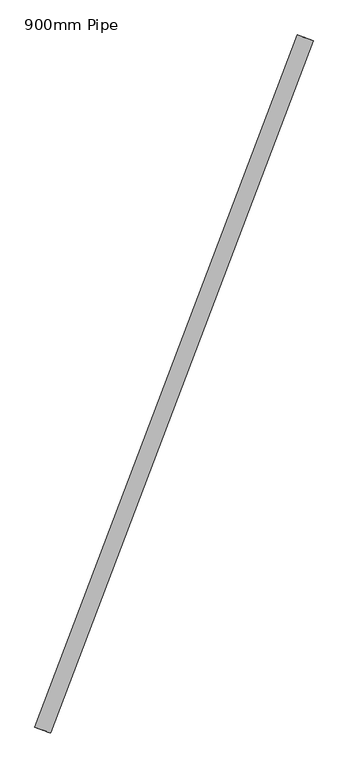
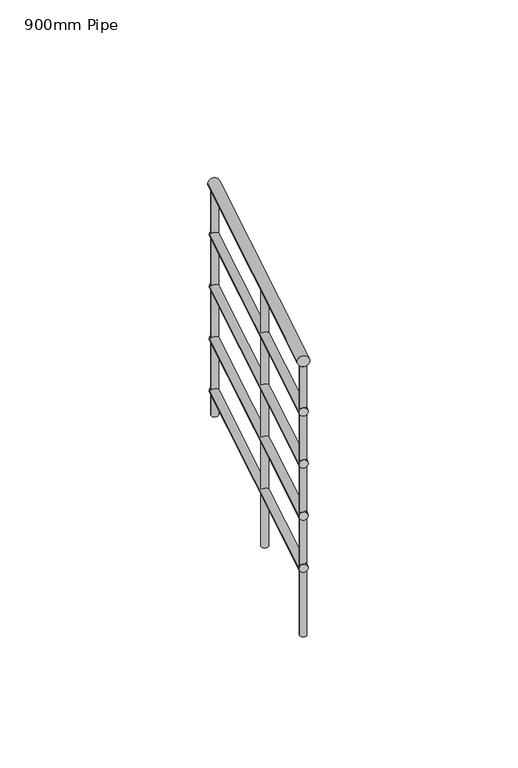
"""IFC4 building model written with IfcOpenShell, lengths in millimetres: railing geometry, 900mm Pipe."""

import ifcopenshell
import ifcopenshell.guid

model = None  # the IFC model being written
_history = None  # IfcOwnerHistory: only IFC2X3 demands one
_inside = {}  # id of a spatial element -> (the spatial element, [elements in it])
_under = {}  # id of a project, library or spatial element -> (it, [spatial elements below it])
_declared = {}  # id of a project -> (the project, [libraries it declares])
_typed = {}  # id of a type object -> (the type object, [elements of that type])
_made_of = {}  # id of a material, layer set ... -> (it, [elements and type objects made of it])


def new_model(schema):
    """Start an empty IFC model of exactly this schema.

    Asked for "IFC4X3", IfcOpenShell would pick the latest addendum, in which some entities
    have other attributes; the version numbers below select the first issue.
    IFC2X3 requires an IfcOwnerHistory on every rooted entity: one is made here for all.
    """
    global model, _history
    if schema == "IFC4X3":
        model = ifcopenshell.file(schema_version=(4, 3, 0, 0))
    else:
        model = ifcopenshell.file(schema=schema)
    _inside.clear()
    _under.clear()
    _declared.clear()
    _typed.clear()
    _made_of.clear()
    _history = None
    if model.schema == "IFC2X3":
        org = make("IfcOrganization", Name="unknown")
        user = make(
            "IfcPersonAndOrganization",
            ThePerson=make("IfcPerson", FamilyName="unknown"),
            TheOrganization=org,
        )
        app = make(
            "IfcApplication",
            ApplicationDeveloper=org,
            Version="unknown",
            ApplicationFullName="unknown",
            ApplicationIdentifier="unknown",
        )
        _history = make(
            "IfcOwnerHistory",
            OwningUser=user,
            OwningApplication=app,
            ChangeAction="ADDED",
            CreationDate=0,
        )
    return model


def make(cls, **values):
    """One entity of the class cls with the attributes given. An attribute that is None is left unset."""
    return model.create_entity(
        cls, **{name: value for name, value in values.items() if value is not None}
    )


def rooted(cls, **values):
    """An entity with a GlobalId (a new one), such as an element, a storey or a relation."""
    return make(cls, GlobalId=ifcopenshell.guid.new(), OwnerHistory=_history, **values)


def si_unit(unit_type, name, prefix=None):
    """IfcSIUnit, for example si_unit("LENGTHUNIT", "METRE", prefix="MILLI")."""
    return make("IfcSIUnit", UnitType=unit_type, Prefix=prefix, Name=name)


def assignment(units):
    """IfcUnitAssignment: the units of a project."""
    return None if units is None else make("IfcUnitAssignment", Units=units)


def point(xyz):
    """IfcCartesianPoint."""
    return None if xyz is None else make("IfcCartesianPoint", Coordinates=xyz)


def direction(xyz):
    """IfcDirection."""
    return None if xyz is None else make("IfcDirection", DirectionRatios=xyz)


def frame(location, z_axis=None, x_axis=None):
    """IfcAxis2Placement3D, a coordinate frame: its origin and axes. An axis left out is left unset."""
    return make(
        "IfcAxis2Placement3D",
        Location=point(location),
        Axis=direction(z_axis),
        RefDirection=direction(x_axis),
    )


def origin():
    """The frame at (0, 0, 0) with its axes left unset."""
    return frame((0.0, 0.0, 0.0))


def place(relative_to, where):
    """IfcLocalPlacement: puts the frame where relative to a parent placement (None: the world)."""
    return make(
        "IfcLocalPlacement", PlacementRelTo=relative_to, RelativePlacement=where
    )


def context(
    kind, dimensions, precision=None, world=None, true_north=None, identifier=None
):
    """IfcGeometricRepresentationContext, for example the 3D "Model" context."""
    return make(
        "IfcGeometricRepresentationContext",
        ContextIdentifier=identifier,
        ContextType=kind,
        CoordinateSpaceDimension=dimensions,
        Precision=precision,
        WorldCoordinateSystem=world,
        TrueNorth=true_north,
    )


def project(units=None, contexts=None):
    """IfcProject with its units and contexts."""
    return rooted(
        "IfcProject",
        Name="project",
        RepresentationContexts=contexts,
        UnitsInContext=assignment(units),
    )


def spatial(cls, under=None, at=None, **own):
    """A site, building, storey or space (cls), placed at a placement, below another one or the project."""
    s = rooted(cls, ObjectPlacement=at, **own)
    if under is not None:
        _under.setdefault(under.id(), (under, []))[1].append(s)
    return s


def circle_curve(where, radius):
    """IfcCircle in the frame where."""
    return make("IfcCircle", Position=where, Radius=radius)


def ellipse_curve(where, semi_axis1, semi_axis2):
    """IfcEllipse in the frame where."""
    return make(
        "IfcEllipse", Position=where, SemiAxis1=semi_axis1, SemiAxis2=semi_axis2
    )


def shape(context_of_items, identifier, shape_type, items):
    """IfcShapeRepresentation: the items that make up one representation, for example the "Body"."""
    return make(
        "IfcShapeRepresentation",
        ContextOfItems=context_of_items,
        RepresentationIdentifier=identifier,
        RepresentationType=shape_type,
        Items=items,
    )


def source(mapping_origin, context_of_items, identifier, shape_type, items):
    """IfcRepresentationMap: a shape defined once, which mapped items show again and again."""
    return make(
        "IfcRepresentationMap",
        MappingOrigin=mapping_origin,
        MappedRepresentation=shape(context_of_items, identifier, shape_type, items),
    )


def transform(
    local_origin,
    x_axis=None,
    y_axis=None,
    z_axis=None,
    scale=None,
    scale2=None,
    scale3=None,
    uniform=True,
):
    """IfcCartesianTransformationOperator3D, or its non-uniform kind. x_axis, y_axis, z_axis: its Axis1, 2, 3."""
    if uniform:
        return make(
            "IfcCartesianTransformationOperator3D",
            Axis1=direction(x_axis),
            Axis2=direction(y_axis),
            LocalOrigin=point(local_origin),
            Scale=scale,
            Axis3=direction(z_axis),
        )
    return make(
        "IfcCartesianTransformationOperator3DnonUniform",
        Axis1=direction(x_axis),
        Axis2=direction(y_axis),
        LocalOrigin=point(local_origin),
        Scale=scale,
        Axis3=direction(z_axis),
        Scale2=scale2,
        Scale3=scale3,
    )


def mapped(mapping_source, mapping_target):
    """IfcMappedItem: shows the shape of a source again, moved by a transform."""
    return make(
        "IfcMappedItem", MappingSource=mapping_source, MappingTarget=mapping_target
    )


def made_of(thing, what):
    """Note that an element or type object is made of a material, layer set ...; save() writes the relation."""
    if what is not None:
        _made_of.setdefault(what.id(), (what, []))[1].append(thing)
    return thing


def element(
    cls,
    number,
    at=None,
    inside=None,
    cuts=None,
    type_object=None,
    material=None,
    context=None,
    identifier="Body",
    shape_type=None,
    held_by="IfcProductDefinitionShape",
    body=None,
    shapes=None,
    **own,
):
    """One element of the class cls, such as IfcWall. Its Tag is "e" and its number.

    at: its placement. inside: the storey or other place that contains it. cuts: it is an
    opening in that element (IfcRelVoidsElement). A single representation is given by context,
    identifier, shape_type and body (its items); several are given by shapes. held_by: the class
    of the entity that holds the representations. save() writes the other relations.
    """
    e = rooted(cls, Tag="e%d" % number, ObjectPlacement=at, **own)
    if body is not None:
        shapes = [shape(context, identifier, shape_type, body)]
    if shapes is not None:
        e.Representation = make(held_by, Representations=shapes)
    if inside is not None:
        _inside.setdefault(inside.id(), (inside, []))[1].append(e)
    if cuts is not None:
        rooted(
            "IfcRelVoidsElement", RelatingBuildingElement=cuts, RelatedOpeningElement=e
        )
    if type_object is not None:
        _typed.setdefault(type_object.id(), (type_object, []))[1].append(e)
    return made_of(e, material)


def aggregate(whole, parts):
    """IfcRelAggregates: a whole, such as a stair, and the parts it consists of."""
    return rooted("IfcRelAggregates", RelatingObject=whole, RelatedObjects=parts)


def save(model, path):
    """Write the relations noted so far, then the file.

    IfcRelAggregates (storeys below a building ...), IfcRelContainedInSpatialStructure (elements
    in a storey), IfcRelDefinesByType, IfcRelAssociatesMaterial and IfcRelDeclares: one each for
    every whole, place, type object, material and project.
    """
    for whole, parts in _under.values():
        aggregate(whole, parts)
    for where, things in _inside.values():
        rooted(
            "IfcRelContainedInSpatialStructure",
            RelatedElements=things,
            RelatingStructure=where,
        )
    for kind, things in _typed.values():
        rooted("IfcRelDefinesByType", RelatedObjects=things, RelatingType=kind)
    for what, things in _made_of.values():
        rooted("IfcRelAssociatesMaterial", RelatedObjects=things, RelatingMaterial=what)
    for by, libraries in _declared.values():
        rooted("IfcRelDeclares", RelatingContext=by, RelatedDefinitions=libraries)
    model.write(path)


def plane_surface(at):
    """IfcPlane: the flat surface through the origin of the frame at, square to its z axis."""
    return make("IfcPlane", Position=at)


def cylinder_surface(at, radius):
    """IfcCylindricalSurface: all points at the distance radius from the z axis of the frame at."""
    return make("IfcCylindricalSurface", Position=at, Radius=radius)


def advanced_brep(points, edges, surfaces, faces):
    """IfcAdvancedBrep: a solid bounded by faces that lie on surfaces and meet in shared edges.

    An edge is (start, end): straight between two places in points (the first is 0);
    or (start, end, curve); or (start, end, curve, False) where it runs against its curve.
    A face is (place in surfaces, loops), or (place, loops, False) where it looks against
    its surface's normal. A loop lists edges by number (the first is 1), with a minus sign
    where the edge is run from its end to its start. The first loop is the outer one.
    """
    corners = [point(p) for p in points]
    vertices = [make("IfcVertexPoint", VertexGeometry=c) for c in corners]
    made = []
    for start, end, *more in edges:
        made.append(
            make(
                "IfcEdgeCurve",
                EdgeStart=vertices[start],
                EdgeEnd=vertices[end],
                EdgeGeometry=more[0] if more else make("IfcPolyline", Points=[corners[start], corners[end]]),
                SameSense=more[1] if len(more) > 1 else True,
            )
        )
    hull = []
    for where, loops, *sense in faces:
        bounds = []
        for j, loop in enumerate(loops):
            ring = [make("IfcOrientedEdge", EdgeElement=made[abs(k) - 1], Orientation=k > 0) for k in loop]
            bounds.append(
                make(
                    "IfcFaceOuterBound" if j == 0 else "IfcFaceBound",
                    Bound=make("IfcEdgeLoop", EdgeList=ring),
                    Orientation=True,
                )
            )
        hull.append(make("IfcAdvancedFace", Bounds=bounds, FaceSurface=surfaces[where], SameSense=sense[0] if sense else True))
    return make("IfcAdvancedBrep", Outer=make("IfcClosedShell", CfsFaces=hull))


def railing_900mm_pipe_be1fdf7d(model_context):
    return source(origin(), model_context, "Body", "AdvancedBrep", [
        advanced_brep(
        [(961590.5182853, -21520.4266079, 9458.386247), (961553.1264148, -21506.2192852, 9458.386247), (960963.5376583, -23170.5600639, 9996.2685999), (960926.1457877, -23156.3527413, 9996.2685999)],
        [
            (0, 1, ellipse_curve(frame((961571.8223501, -21513.3229466, 9458.386247), z_axis=(0.3551830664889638, 0.934796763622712, 0.0), x_axis=(0.0, 0.0, -1.0)), 20.9078706, 20.0)),
            (1, 0, ellipse_curve(frame((961571.8223501, -21513.3229466, 9458.386247), z_axis=(0.3551830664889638, 0.934796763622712, 0.0), x_axis=(0.0, 0.0, -1.0)), 20.9078706, 20.0)),
            (2, 3, ellipse_curve(frame((960944.841723, -23163.4564026, 9996.2685999), z_axis=(-0.3551830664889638, -0.934796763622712, 0.0), x_axis=(0.0, 0.0, -1.0)), 20.9078706, 20.0)),
            (3, 2, ellipse_curve(frame((960944.841723, -23163.4564026, 9996.2685999), z_axis=(-0.3551830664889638, -0.934796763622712, 0.0), x_axis=(0.0, 0.0, -1.0)), 20.9078706, 20.0)),
            (0, 2),
            (3, 1),
        ],
        [
            plane_surface(frame((961571.8223501, -21513.3229466, 9479.2941176), z_axis=(0.3551830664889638, 0.934796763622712, 0.0), x_axis=(0.934796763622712, -0.3551830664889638, 0.0))),
            plane_surface(frame((960944.841723, -23163.4564026, 10017.1764706), z_axis=(-0.3551830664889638, -0.934796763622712, 0.0), x_axis=(0.934796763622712, -0.3551830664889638, 0.0))),
            cylinder_surface(frame((961569.7517898, -21518.7723984, 9460.1625663), z_axis=(0.3397601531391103, 0.894205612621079, -0.2914778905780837), x_axis=(-0.934796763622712, 0.3551830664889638, 0.0)), 20.0),
        ],
        [
            (0, [[1, 2]]),
            (1, [[3, 4]]),
            (2, [[-1, 5, -4, 6]]),
            (2, [[-2, -6, -3, -5]]),
        ],
    ),
        advanced_brep(
        [(961585.8443015, -21518.6506926, 9263.6132147), (961557.8003986, -21507.9952006, 9263.6132147), (960958.8636745, -23168.7841486, 9801.4955676), (960930.8197716, -23158.1286566, 9801.4955676)],
        [
            (0, 1, ellipse_curve(frame((961571.8223501, -21513.3229466, 9263.6132147), z_axis=(0.3551830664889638, 0.934796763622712, 0.0), x_axis=(0.0, 0.0, -1.0)), 15.680903, 15.0)),
            (1, 0, ellipse_curve(frame((961571.8223501, -21513.3229466, 9263.6132147), z_axis=(0.3551830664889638, 0.934796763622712, 0.0), x_axis=(0.0, 0.0, -1.0)), 15.680903, 15.0)),
            (2, 3, ellipse_curve(frame((960944.841723, -23163.4564026, 9801.4955676), z_axis=(-0.3551830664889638, -0.934796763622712, 0.0), x_axis=(0.0, 0.0, -1.0)), 15.680903, 15.0)),
            (3, 2, ellipse_curve(frame((960944.841723, -23163.4564026, 9801.4955676), z_axis=(-0.3551830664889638, -0.934796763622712, 0.0), x_axis=(0.0, 0.0, -1.0)), 15.680903, 15.0)),
            (0, 2),
            (3, 1),
        ],
        [
            plane_surface(frame((961571.8223501, -21513.3229466, 9279.2941176), z_axis=(0.3551830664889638, 0.934796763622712, 0.0), x_axis=(0.934796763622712, -0.3551830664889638, 0.0))),
            plane_surface(frame((960944.841723, -23163.4564026, 9817.1764706), z_axis=(-0.3551830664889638, -0.934796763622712, 0.0), x_axis=(0.934796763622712, -0.3551830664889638, 0.0))),
            cylinder_surface(frame((961570.2694299, -21517.4100354, 9264.9454542), z_axis=(0.3397601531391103, 0.894205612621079, -0.2914778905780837), x_axis=(-0.934796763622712, 0.3551830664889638, 0.0)), 15.0),
        ],
        [
            (0, [[1, 2]]),
            (1, [[3, 4]]),
            (2, [[-1, 5, -4, 6]]),
            (2, [[-2, -6, -3, -5]]),
        ],
    ),
        advanced_brep(
        [(961585.8443015, -21518.6506926, 9063.6132147), (961557.8003986, -21507.9952006, 9063.6132147), (960958.8636745, -23168.7841486, 9601.4955676), (960930.8197716, -23158.1286566, 9601.4955676)],
        [
            (0, 1, ellipse_curve(frame((961571.8223501, -21513.3229466, 9063.6132147), z_axis=(0.3551830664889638, 0.934796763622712, 0.0), x_axis=(0.0, 0.0, -1.0)), 15.680903, 15.0)),
            (1, 0, ellipse_curve(frame((961571.8223501, -21513.3229466, 9063.6132147), z_axis=(0.3551830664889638, 0.934796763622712, 0.0), x_axis=(0.0, 0.0, -1.0)), 15.680903, 15.0)),
            (2, 3, ellipse_curve(frame((960944.841723, -23163.4564026, 9601.4955676), z_axis=(-0.3551830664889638, -0.934796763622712, 0.0), x_axis=(0.0, 0.0, -1.0)), 15.680903, 15.0)),
            (3, 2, ellipse_curve(frame((960944.841723, -23163.4564026, 9601.4955676), z_axis=(-0.3551830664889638, -0.934796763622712, 0.0), x_axis=(0.0, 0.0, -1.0)), 15.680903, 15.0)),
            (0, 2),
            (3, 1),
        ],
        [
            plane_surface(frame((961571.8223501, -21513.3229466, 9079.2941176), z_axis=(0.3551830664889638, 0.934796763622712, 0.0), x_axis=(0.934796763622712, -0.3551830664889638, 0.0))),
            plane_surface(frame((960944.841723, -23163.4564026, 9617.1764706), z_axis=(-0.3551830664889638, -0.934796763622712, 0.0), x_axis=(0.934796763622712, -0.3551830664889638, 0.0))),
            cylinder_surface(frame((961570.2694299, -21517.4100354, 9064.9454542), z_axis=(0.33976015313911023, 0.8942056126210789, -0.2914778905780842), x_axis=(-0.934796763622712, 0.3551830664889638, 0.0)), 15.0),
        ],
        [
            (0, [[1, 2]]),
            (1, [[3, 4]]),
            (2, [[-1, 5, -4, 6]]),
            (2, [[-2, -6, -3, -5]]),
        ],
    ),
        advanced_brep(
        [(961585.8443015, -21518.6506926, 8863.6132147), (961557.8003986, -21507.9952006, 8863.6132147), (960958.8636745, -23168.7841486, 9401.4955676), (960930.8197716, -23158.1286566, 9401.4955676)],
        [
            (0, 1, ellipse_curve(frame((961571.8223501, -21513.3229466, 8863.6132147), z_axis=(0.3551830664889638, 0.934796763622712, 0.0), x_axis=(0.0, 0.0, -1.0)), 15.680903, 15.0)),
            (1, 0, ellipse_curve(frame((961571.8223501, -21513.3229466, 8863.6132147), z_axis=(0.3551830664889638, 0.934796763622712, 0.0), x_axis=(0.0, 0.0, -1.0)), 15.680903, 15.0)),
            (2, 3, ellipse_curve(frame((960944.841723, -23163.4564026, 9401.4955676), z_axis=(-0.3551830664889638, -0.934796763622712, 0.0), x_axis=(0.0, 0.0, -1.0)), 15.680903, 15.0)),
            (3, 2, ellipse_curve(frame((960944.841723, -23163.4564026, 9401.4955676), z_axis=(-0.3551830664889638, -0.934796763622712, 0.0), x_axis=(0.0, 0.0, -1.0)), 15.680903, 15.0)),
            (0, 2),
            (3, 1),
        ],
        [
            plane_surface(frame((961571.8223501, -21513.3229466, 8879.2941176), z_axis=(0.3551830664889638, 0.934796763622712, 0.0), x_axis=(0.934796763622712, -0.3551830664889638, 0.0))),
            plane_surface(frame((960944.841723, -23163.4564026, 9417.1764706), z_axis=(-0.3551830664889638, -0.934796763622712, 0.0), x_axis=(0.934796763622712, -0.3551830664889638, 0.0))),
            cylinder_surface(frame((961570.2694299, -21517.4100354, 8864.9454542), z_axis=(0.33976015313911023, 0.8942056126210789, -0.2914778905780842), x_axis=(-0.934796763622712, 0.3551830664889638, 0.0)), 15.0),
        ],
        [
            (0, [[1, 2]]),
            (1, [[3, 4]]),
            (2, [[-1, 5, -4, 6]]),
            (2, [[-2, -6, -3, -5]]),
        ],
    ),
        advanced_brep(
        [(961585.8443015, -21518.6506926, 8663.6132147), (961557.8003986, -21507.9952006, 8663.6132147), (960958.8636745, -23168.7841486, 9201.4955676), (960930.8197716, -23158.1286566, 9201.4955676)],
        [
            (0, 1, ellipse_curve(frame((961571.8223501, -21513.3229466, 8663.6132147), z_axis=(0.3551830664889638, 0.934796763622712, 0.0), x_axis=(0.0, 0.0, -1.0)), 15.680903, 15.0)),
            (1, 0, ellipse_curve(frame((961571.8223501, -21513.3229466, 8663.6132147), z_axis=(0.3551830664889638, 0.934796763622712, 0.0), x_axis=(0.0, 0.0, -1.0)), 15.680903, 15.0)),
            (2, 3, ellipse_curve(frame((960944.841723, -23163.4564026, 9201.4955676), z_axis=(-0.3551830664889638, -0.934796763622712, 0.0), x_axis=(0.0, 0.0, -1.0)), 15.680903, 15.0)),
            (3, 2, ellipse_curve(frame((960944.841723, -23163.4564026, 9201.4955676), z_axis=(-0.3551830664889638, -0.934796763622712, 0.0), x_axis=(0.0, 0.0, -1.0)), 15.680903, 15.0)),
            (0, 2),
            (3, 1),
        ],
        [
            plane_surface(frame((961571.8223501, -21513.3229466, 8679.2941176), z_axis=(0.3551830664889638, 0.934796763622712, 0.0), x_axis=(0.934796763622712, -0.3551830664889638, 0.0))),
            plane_surface(frame((960944.841723, -23163.4564026, 9217.1764706), z_axis=(-0.3551830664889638, -0.934796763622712, 0.0), x_axis=(0.934796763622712, -0.3551830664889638, 0.0))),
            cylinder_surface(frame((961570.2694299, -21517.4100354, 8664.9454542), z_axis=(0.33976015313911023, 0.8942056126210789, -0.2914778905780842), x_axis=(-0.934796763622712, 0.3551830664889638, 0.0)), 15.0),
        ],
        [
            (0, [[1, 2]]),
            (1, [[3, 4]]),
            (2, [[-1, 5, -4, 6]]),
            (2, [[-2, -6, -3, -5]]),
        ],
    ),
        advanced_brep(
        [(961204.954324, -22443.6799219, 9742.1874779), (961204.954324, -22443.6799219, 8758.5882353), (961228.3242431, -22452.5594985, 8758.5882353), (961228.3242431, -22452.5594985, 9742.1874779)],
        [
            (0, 1),
            (1, 2, circle_curve(frame((961216.6392836, -22448.1197102, 8758.5882353), z_axis=(0.0, 0.0, 1.0), x_axis=(0.9347967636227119, -0.35518306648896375, 0.0)), 12.5)),
            (2, 3),
            (3, 0, ellipse_curve(frame((961216.6392836, -22448.1197102, 9742.1874779), z_axis=(-0.10352801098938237, -0.27247258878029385, -0.9565775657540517), x_axis=(-0.33976015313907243, -0.8942056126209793, 0.29147789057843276)), 13.0674191, 12.5)),
            (0, 3, ellipse_curve(frame((961216.6392836, -22448.1197102, 9742.1874779), z_axis=(-0.10352801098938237, -0.27247258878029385, -0.9565775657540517), x_axis=(-0.33976015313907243, -0.8942056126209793, 0.29147789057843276)), 13.0674191, 12.5)),
            (2, 1, circle_curve(frame((961216.6392836, -22448.1197102, 8758.5882353), z_axis=(0.0, 0.0, 1.0), x_axis=(0.9347967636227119, -0.35518306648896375, 0.0)), 12.5)),
        ],
        [
            cylinder_surface(frame((961216.6392836, -22448.1197102, 8658.5882353), z_axis=(0.0, 0.0, 1.0), x_axis=(0.9347967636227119, -0.35518306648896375, 0.0)), 12.5),
            plane_surface(frame((961231.129626, -22480.369206, 9749.8052054), z_axis=(0.10352801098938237, 0.27247258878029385, 0.9565775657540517), x_axis=(-0.9347967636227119, 0.35518306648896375, 0.0))),
            plane_surface(frame((961248.8887793, -22433.6293678, 8758.5882353), z_axis=(0.0, 0.0, -1.0), x_axis=(-0.9347967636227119, 0.35518306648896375, 0.0))),
        ],
        [
            (0, [[1, 2, 3, 4]]),
            (0, [[-1, 5, -3, 6]]),
            (1, [[-4, -5]]),
            (2, [[-2, -6]]),
        ],
    ),
        advanced_brep(
        [(960937.5965518, -23147.3316547, 9971.5518655), (960937.5965518, -23147.3316547, 8937.8823529), (960960.9664709, -23156.2112314, 8937.8823529), (960960.9664709, -23156.2112314, 9971.5518655)],
        [
            (0, 1),
            (1, 2, circle_curve(frame((960949.2815113, -23151.771443, 8937.8823529), z_axis=(0.0, 0.0, 1.0), x_axis=(0.9347967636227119, -0.35518306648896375, 0.0)), 12.5)),
            (2, 3),
            (3, 0, ellipse_curve(frame((960949.2815113, -23151.771443, 9971.5518655), z_axis=(-0.10352801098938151, -0.2724725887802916, -0.9565775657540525), x_axis=(-0.3397601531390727, -0.8942056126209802, 0.2914778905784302)), 13.0674191, 12.5)),
            (0, 3, ellipse_curve(frame((960949.2815113, -23151.771443, 9971.5518655), z_axis=(-0.10352801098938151, -0.2724725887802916, -0.9565775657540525), x_axis=(-0.3397601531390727, -0.8942056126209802, 0.2914778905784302)), 13.0674191, 12.5)),
            (2, 1, circle_curve(frame((960949.2815113, -23151.771443, 8937.8823529), z_axis=(0.0, 0.0, 1.0), x_axis=(0.9347967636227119, -0.35518306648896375, 0.0)), 12.5)),
        ],
        [
            cylinder_surface(frame((960949.2815113, -23151.771443, 8837.8823529), z_axis=(0.0, 0.0, 1.0), x_axis=(0.9347967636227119, -0.35518306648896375, 0.0)), 12.5),
            plane_surface(frame((960963.7718538, -23184.0209388, 9979.1695931), z_axis=(0.10352801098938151, 0.2724725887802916, 0.9565775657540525), x_axis=(-0.9347967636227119, 0.35518306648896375, 0.0))),
            plane_surface(frame((960981.5310071, -23137.2811006, 8937.8823529), z_axis=(0.0, 0.0, -1.0), x_axis=(-0.9347967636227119, 0.35518306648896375, 0.0))),
        ],
        [
            (0, [[1, 2, 3, 4]]),
            (0, [[-1, 5, -3, 6]]),
            (1, [[-4, -5]]),
            (2, [[-2, -6]]),
        ],
    ),
        advanced_brep(
        [(961555.6976022, -21520.5681178, 9441.2872401), (961555.6976022, -21520.5681178, 8579.2941176), (961579.0675213, -21529.4476945, 8579.2941176), (961579.0675213, -21529.4476945, 9441.2872401)],
        [
            (0, 1),
            (1, 2, circle_curve(frame((961567.3825617, -21525.0079061, 8579.2941176), z_axis=(0.0, 0.0, 1.0), x_axis=(0.9347967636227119, -0.35518306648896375, 0.0)), 12.5)),
            (2, 3),
            (3, 0, ellipse_curve(frame((961567.3825617, -21525.0079061, 9441.2872401), z_axis=(-0.10352801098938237, -0.27247258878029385, -0.9565775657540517), x_axis=(-0.33976015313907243, -0.8942056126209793, 0.29147789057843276)), 13.0674191, 12.5)),
            (0, 3, ellipse_curve(frame((961567.3825617, -21525.0079061, 9441.2872401), z_axis=(-0.10352801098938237, -0.27247258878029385, -0.9565775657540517), x_axis=(-0.33976015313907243, -0.8942056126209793, 0.29147789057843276)), 13.0674191, 12.5)),
            (2, 1, circle_curve(frame((961567.3825617, -21525.0079061, 8579.2941176), z_axis=(0.0, 0.0, 1.0), x_axis=(0.9347967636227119, -0.35518306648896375, 0.0)), 12.5)),
        ],
        [
            cylinder_surface(frame((961567.3825617, -21525.0079061, 8479.2941176), z_axis=(0.0, 0.0, 1.0), x_axis=(0.9347967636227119, -0.35518306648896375, 0.0)), 12.5),
            plane_surface(frame((961581.8729042, -21557.2574019, 9448.9049677), z_axis=(0.10352801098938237, 0.27247258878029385, 0.9565775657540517), x_axis=(-0.9347967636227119, 0.35518306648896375, 0.0))),
            plane_surface(frame((961599.6320575, -21510.5175637, 8579.2941176), z_axis=(0.0, 0.0, -1.0), x_axis=(-0.9347967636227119, 0.35518306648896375, 0.0))),
        ],
        [
            (0, [[1, 2, 3, 4]]),
            (0, [[-1, 5, -3, 6]]),
            (1, [[-4, -5]]),
            (2, [[-2, -6]]),
        ],
    ),
    ])


if __name__ == "__main__":
    model = new_model("IFC4")
    model_context = context("Model", 3, world=origin())
    ifc_project = project(units=[si_unit("LENGTHUNIT", "METRE", prefix="MILLI")], contexts=[model_context])
    site = spatial("IfcSite", under=ifc_project)
    building = spatial("IfcBuilding", under=site)
    placement = place(None, origin())
    railing_900mm_pipe_shape = railing_900mm_pipe_be1fdf7d(model_context)
    element("IfcRailing", 1, ObjectType="900mm Pipe", at=placement, inside=building, context=model_context, shape_type="MappedRepresentation", body=[
        mapped(railing_900mm_pipe_shape, transform((0.0, 0.0, 0.0), x_axis=(1.0, 0.0, 0.0), y_axis=(0.0, 1.0, 0.0), z_axis=(0.0, 0.0, 1.0))),
    ])
    save(model, "model.ifc")
